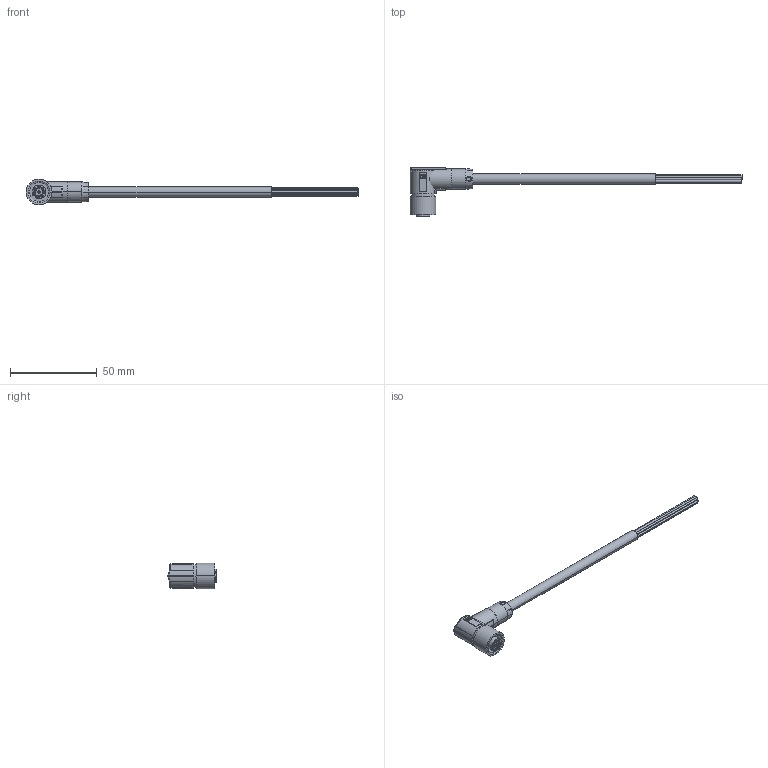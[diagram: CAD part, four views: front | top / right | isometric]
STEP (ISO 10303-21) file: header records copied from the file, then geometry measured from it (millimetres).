
FILE_DESCRIPTION (( 'STEP AP203' ), '1' );
FILE_NAME ('Sensor-Aktor-Kabel-SAC-8P-3.0-PUR_M12FR_SH_PhoenixContact_1522927.step', '2022-02-03T16:13:15', ( '' ), ( '' ), 'SwSTEP 2.0', 'SolidWorks 2020', '' );
FILE_SCHEMA (( 'CONFIG_CONTROL_DESIGN' ));
Length unit declared in the file: millimetre
Products named in the file (1): Sensor-Aktor-Kabel-SAC-8P-3.0-PUR_M12FR_SH_PhoenixContact_1522927
Bounding box: 191.25 x 28 x 14.8 mm (x, y, z)
Volume: 9609.9 mm3; surface area: 6588.5 mm2
Topology: 1 solids, 1 shells, 252 faces, 615 edges, 406 vertices
Faces by surface type: cylinder 137, plane 95, bspline 11, cone 9
Entity records: 9013 total; most frequent: CARTESIAN_POINT 2911, DIRECTION 1286, ORIENTED_EDGE 1230, EDGE_CURVE 615, AXIS2_PLACEMENT_3D 505, VERTEX_POINT 406, EDGE_LOOP 293, VECTOR 276
